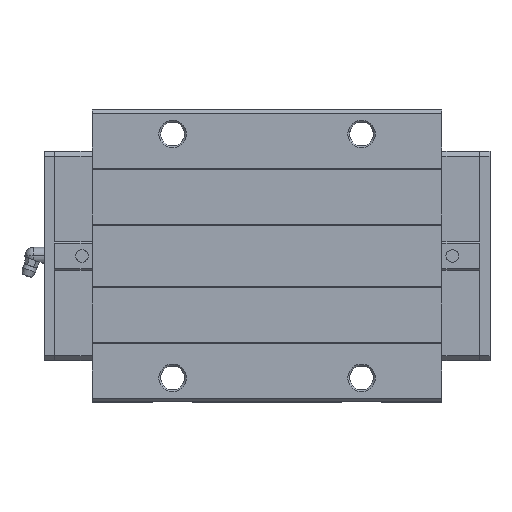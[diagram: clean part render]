
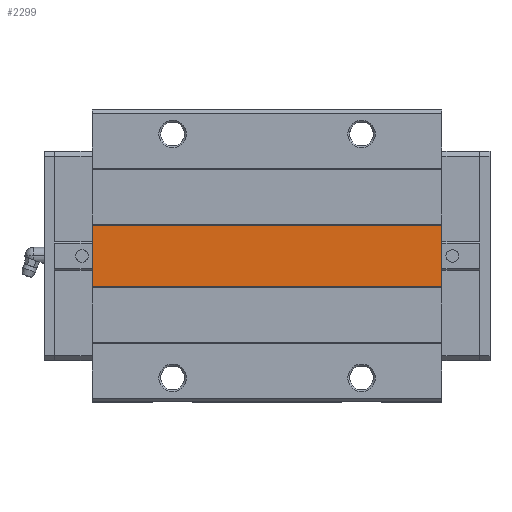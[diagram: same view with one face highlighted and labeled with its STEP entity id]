
A CAD part, top view. The second image highlights one B-rep face of the part: STEP entity #2299.
In plain terms, the highlighted planar face has unit normal (0, 0, 1).
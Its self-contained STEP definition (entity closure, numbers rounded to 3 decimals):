
#2238=CARTESIAN_POINT('POINT148',(231.6,-18.,
   75.));
#2239=VERTEX_POINT('VERTEX148',#2238);
#2246=CARTESIAN_POINT('POINT149',(28.,-18.,
   75.));
#2247=VERTEX_POINT('VERTEX149',#2246);
#2248=CARTESIAN_POINT('POS219',(28.,-18.,
   75.));
#2249=DIRECTION('DIR318',(1.,0.,0.));
#2250=VECTOR('VEC120',#2249,1.);
#2251=LINE('STRAIGHT120',#2248,#2250);
#2252=EDGE_CURVE('EDGE218',#2247,#2239,#2251,.T.);
#2269=CARTESIAN_POINT('POINT150',(231.6,18.,75.));
#2270=VERTEX_POINT('VERTEX150',#2269);
#2271=CARTESIAN_POINT('POS222',(231.6,0.,75.));
#2272=DIRECTION('DIR322',(0.,1.,0.));
#2273=VECTOR('VEC122',#2272,1.);
#2274=LINE('STRAIGHT122',#2271,#2273);
#2275=EDGE_CURVE('EDGE220',#2239,#2270,#2274,.T.);
#2276=ORIENTED_EDGE('COEDGE376',*,*,#2275,.T.);
#2277=CARTESIAN_POINT('POINT151',(28.,18.,75.));
#2278=VERTEX_POINT('VERTEX151',#2277);
#2279=CARTESIAN_POINT('POS223',(28.,18.,75.));
#2280=DIRECTION('DIR323',(1.,0.,0.));
#2281=VECTOR('VEC123',#2280,1.);
#2282=LINE('STRAIGHT123',#2279,#2281);
#2283=EDGE_CURVE('EDGE221',#2278,#2270,#2282,.T.);
#2284=ORIENTED_EDGE('COEDGE377',*,*,#2283,.F.);
#2285=CARTESIAN_POINT('POS224',(28.,0.,75.));
#2286=DIRECTION('DIR324',(0.,1.,0.));
#2287=VECTOR('VEC124',#2286,1.);
#2288=LINE('STRAIGHT124',#2285,#2287);
#2289=EDGE_CURVE('EDGE222',#2247,#2278,#2288,.T.);
#2290=ORIENTED_EDGE('COEDGE378',*,*,#2289,.F.);
#2291=ORIENTED_EDGE('COEDGE379',*,*,#2252,.T.);
#2292=EDGE_LOOP('NONE',(#2276,#2284,#2290,#2291));
#2293=FACE_BOUND('LOOP1',#2292,.T.);
#2294=CARTESIAN_POINT('POS225',(28.,0.,75.));
#2295=DIRECTION('DIR325',(0.,0.,1.));
#2296=DIRECTION('DIR326',(1.,0.,0.));
#2297=AXIS2_PLACEMENT_3D('AXIS101',#2294,#2295,#2296);
#2298=PLANE('PLANE27',#2297);
#2299=ADVANCED_FACE('FACE73',(#2293),#2298,.T.);
